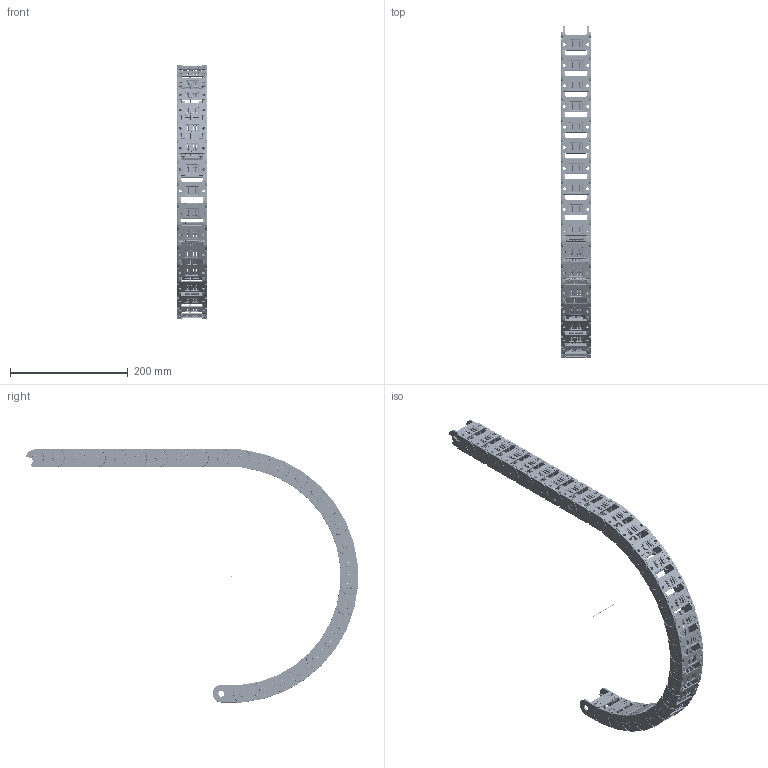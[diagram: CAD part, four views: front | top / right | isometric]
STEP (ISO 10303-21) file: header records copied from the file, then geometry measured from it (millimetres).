
FILE_DESCRIPTION((''),'2;1');
FILE_NAME('\\192.168.0.88\samba\technik\3D\STEP\KOLIBRI\KOLIBRI_30_050_0\KOLIBRI 30_050_0_R200.stp','2013-01-28T11:13:06',('Uebbing'),(''),'Autodesk Inventor 10','Autodesk Inventor 10','');
FILE_SCHEMA(('AUTOMOTIVE_DESIGN { 1 0 10303 214 1 1 1 1 }'));
Length unit declared in the file: millimetre
Products named in the file (6): KOLIBRI 30_050_0_PARAMETRISCH; Achse; Kol_30_050_0_Glied; Kol 30_050_0 Lasche; Kol 30_050_0 Klappsteg; PZ 30 Stecksteg
Assembly tree (32 placements, depth 3):
  KOLIBRI 30_050_0_PARAMETRISCH
    Achse
    Kol_30_050_0_Glied  x28
      Kol 30_050_0 Lasche
      Kol 30_050_0 Klappsteg
      PZ 30 Stecksteg
Bounding box: 50 x 563.76 x 430 mm (x, y, z)
Volume: 436182.6 mm3; surface area: 422612.4 mm2
Topology: 85 solids, 85 shells, 26799 faces, 73224 edges, 47967 vertices
Faces by surface type: plane 13778, bspline 5796, cylinder 5573, torus 1260, cone 224, sphere 168
Full cylindrical faces by diameter (mm): 1 x1, 1.166 x28, 2.048 x28, 2.8 x224, 5.1 x56, 10 x56, 10.1 x56
Entity records: 33224 total; most frequent: CARTESIAN_POINT 9710, ORIENTED_EDGE 5150, DIRECTION 4288, EDGE_CURVE 2575, VERTEX_POINT 1701, VECTOR 1612, LINE 1612, AXIS2_PLACEMENT_3D 1338
